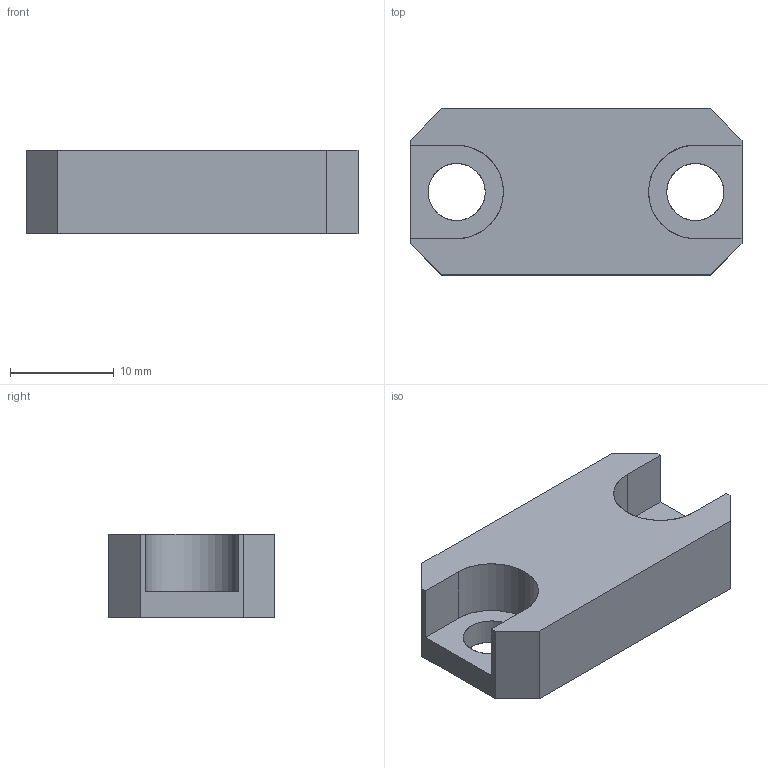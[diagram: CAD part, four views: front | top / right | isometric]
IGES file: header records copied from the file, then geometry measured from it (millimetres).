
Global section: file name: E:\UnigraphicsGraphicData\MISUMI_MOLD-PARTS\NX\3d_app10_00913_r00.igs; native system: NX V5.0; preprocessor: UGS NX IGES V5.0; author: MISUMI; date: 20101115.182447; units: millimetre
Bounding box: 32 x 16 x 8 mm (x, y, z)
Surface area: 1846.5 mm2 (no closed solid volume)
Topology: 0 solids, 0 shells, 20 faces, 148 edges, 144 vertices
Faces by surface type: bspline 20
